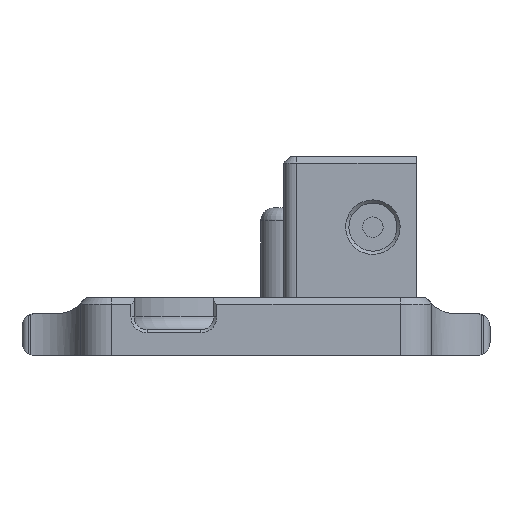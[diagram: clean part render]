
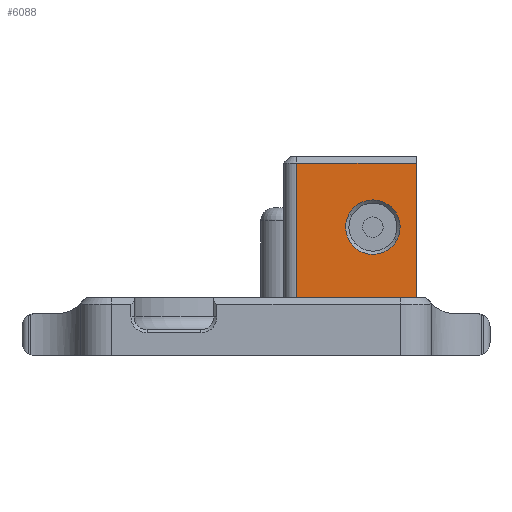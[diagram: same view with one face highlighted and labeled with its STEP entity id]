
A CAD part, front view. The second image highlights one B-rep face of the part: STEP entity #6088.
In plain terms, the highlighted planar face has unit normal (0, -1, 0).
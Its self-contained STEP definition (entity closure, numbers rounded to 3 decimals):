
#6062=AXIS2_PLACEMENT_3D('Plane Axis2P3D',#6059,#6060,#6061) ;
#6072=AXIS2_PLACEMENT_3D('Circle Axis2P3D',#6070,#6071,$) ;
#6081=AXIS2_PLACEMENT_3D('Circle Axis2P3D',#6079,#6080,$) ;
#3096=CARTESIAN_POINT('Vertex',(6.355,-23.9,30.)) ;
#3130=CARTESIAN_POINT('Line Origine',(14.675,-23.9,30.)) ;
#3134=CARTESIAN_POINT('Vertex',(24.995,-23.9,30.)) ;
#3181=CARTESIAN_POINT('Vertex',(6.355,-23.9,9.)) ;
#3184=CARTESIAN_POINT('Line Origine',(6.355,-23.9,20.)) ;
#5667=CARTESIAN_POINT('Line Origine',(24.995,-23.9,19.5)) ;
#5671=CARTESIAN_POINT('Vertex',(24.995,-23.9,9.)) ;
#5815=CARTESIAN_POINT('Line Origine',(15.675,-23.9,9.)) ;
#6059=CARTESIAN_POINT('Axis2P3D Location',(24.995,-23.9,9.)) ;
#6070=CARTESIAN_POINT('Axis2P3D Location',(18.235,-23.9,20.)) ;
#6074=CARTESIAN_POINT('Vertex',(21.965,-23.9,17.962)) ;
#6076=CARTESIAN_POINT('Vertex',(14.506,-23.9,22.038)) ;
#6079=CARTESIAN_POINT('Axis2P3D Location',(18.235,-23.9,20.)) ;
#3131=DIRECTION('Vector Direction',(1.,0.,0.)) ;
#3185=DIRECTION('Vector Direction',(0.,0.,1.)) ;
#5668=DIRECTION('Vector Direction',(0.,0.,1.)) ;
#5816=DIRECTION('Vector Direction',(-1.,0.,0.)) ;
#6060=DIRECTION('Axis2P3D Direction',(0.,1.,-0.)) ;
#6061=DIRECTION('Axis2P3D XDirection',(-1.,0.,0.)) ;
#6071=DIRECTION('Axis2P3D Direction',(0.,1.,-0.)) ;
#6080=DIRECTION('Axis2P3D Direction',(0.,1.,-0.)) ;
#3132=VECTOR('Line Direction',#3131,1.) ;
#3186=VECTOR('Line Direction',#3185,1.) ;
#5669=VECTOR('Line Direction',#5668,1.) ;
#5817=VECTOR('Line Direction',#5816,1.) ;
#6065=ORIENTED_EDGE('',*,*,#3136,.F.) ;
#6066=ORIENTED_EDGE('',*,*,#3188,.F.) ;
#6067=ORIENTED_EDGE('',*,*,#5819,.T.) ;
#6068=ORIENTED_EDGE('',*,*,#5673,.T.) ;
#6085=ORIENTED_EDGE('',*,*,#6078,.T.) ;
#6086=ORIENTED_EDGE('',*,*,#6083,.T.) ;
#6087=FACE_BOUND('',#6084,.T.) ;
#6088=ADVANCED_FACE('Dadi',(#6069,#6087),#6063,.F.) ;
#6073=CIRCLE('generated circle',#6072,4.25) ;
#6082=CIRCLE('generated circle',#6081,4.25) ;
#3136=EDGE_CURVE('',#3097,#3135,#3133,.T.) ;
#3188=EDGE_CURVE('',#3182,#3097,#3187,.T.) ;
#5673=EDGE_CURVE('',#5672,#3135,#5670,.T.) ;
#5819=EDGE_CURVE('',#3182,#5672,#5818,.F.) ;
#6078=EDGE_CURVE('',#6075,#6077,#6073,.T.) ;
#6083=EDGE_CURVE('',#6077,#6075,#6082,.T.) ;
#6064=EDGE_LOOP('',(#6065,#6066,#6067,#6068)) ;
#6084=EDGE_LOOP('',(#6085,#6086)) ;
#6069=FACE_OUTER_BOUND('',#6064,.T.) ;
#3133=LINE('Line',#3130,#3132) ;
#3187=LINE('Line',#3184,#3186) ;
#5670=LINE('Line',#5667,#5669) ;
#5818=LINE('Line',#5815,#5817) ;
#6063=PLANE('',#6062) ;
#3097=VERTEX_POINT('',#3096) ;
#3135=VERTEX_POINT('',#3134) ;
#3182=VERTEX_POINT('',#3181) ;
#5672=VERTEX_POINT('',#5671) ;
#6075=VERTEX_POINT('',#6074) ;
#6077=VERTEX_POINT('',#6076) ;
